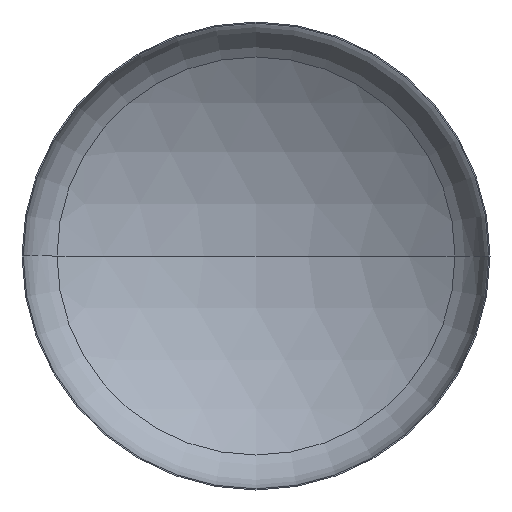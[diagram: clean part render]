
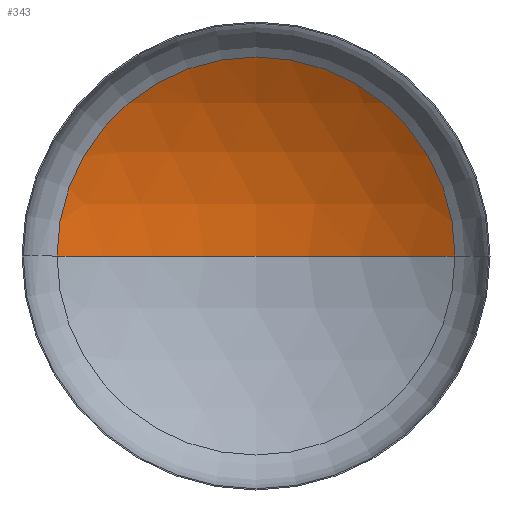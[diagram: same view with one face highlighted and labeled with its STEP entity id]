
A CAD part, front view. The second image highlights one B-rep face of the part: STEP entity #343.
In plain terms, the highlighted spherical face has radius 5600 mm.
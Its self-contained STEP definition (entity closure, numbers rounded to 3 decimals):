
#30 = ORIENTED_EDGE ( 'NONE', *, *, #130, .F. ) ;
#39 = VERTEX_POINT ( 'NONE', #340 ) ;
#58 = AXIS2_PLACEMENT_3D ( 'NONE', #335, #378, #328 ) ;
#61 = AXIS2_PLACEMENT_3D ( 'NONE', #265, #261, #256 ) ;
#63 = AXIS2_PLACEMENT_3D ( 'NONE', #294, #242, #216 ) ;
#67 = DIRECTION ( 'NONE',  ( -1., 0., 0. ) ) ;
#73 = VERTEX_POINT ( 'NONE', #160 ) ;
#95 = SPHERICAL_SURFACE ( 'NONE', #290, 5600. ) ;
#102 = EDGE_LOOP ( 'NONE', ( #30, #405, #120 ) ) ;
#120 = ORIENTED_EDGE ( 'NONE', *, *, #127, .T. ) ;
#127 = EDGE_CURVE ( 'NONE', #39, #73, #394, .T. ) ;
#128 = EDGE_CURVE ( 'NONE', #166, #39, #280, .T. ) ;
#130 = EDGE_CURVE ( 'NONE', #166, #73, #140, .T. ) ;
#140 = CIRCLE ( 'NONE', #58, 5600. ) ;
#146 = DIRECTION ( 'NONE',  ( 0., 0., -1. ) ) ;
#152 = CARTESIAN_POINT ( 'NONE',  ( 0., 1826.686, 0. ) ) ;
#160 = CARTESIAN_POINT ( 'NONE',  ( -2977.168, 969.73, 0. ) ) ;
#166 = VERTEX_POINT ( 'NONE', #152 ) ;
#170 = CARTESIAN_POINT ( 'NONE',  ( 0., -3773.314, 0. ) ) ;
#216 = DIRECTION ( 'NONE',  ( 1., 0., 0. ) ) ;
#242 = DIRECTION ( 'NONE',  ( 0., -1., 0. ) ) ;
#256 = DIRECTION ( 'NONE',  ( -1., 0., 0. ) ) ;
#261 = DIRECTION ( 'NONE',  ( 0., 0., -1. ) ) ;
#265 = CARTESIAN_POINT ( 'NONE',  ( 0., -3773.314, 0. ) ) ;
#280 = CIRCLE ( 'NONE', #61, 5600. ) ;
#290 = AXIS2_PLACEMENT_3D ( 'NONE', #170, #146, #67 ) ;
#294 = CARTESIAN_POINT ( 'NONE',  ( 0., 969.73, 0. ) ) ;
#328 = DIRECTION ( 'NONE',  ( 1., 0., 0. ) ) ;
#335 = CARTESIAN_POINT ( 'NONE',  ( 0., -3773.314, 0. ) ) ;
#340 = CARTESIAN_POINT ( 'NONE',  ( 2977.168, 969.73, 0. ) ) ;
#343 = ADVANCED_FACE ( 'NONE', ( #354 ), #95, .F. ) ;
#354 = FACE_OUTER_BOUND ( 'NONE', #102, .T. ) ;
#378 = DIRECTION ( 'NONE',  ( 0., 0., 1. ) ) ;
#394 = CIRCLE ( 'NONE', #63, 2977.168 ) ;
#405 = ORIENTED_EDGE ( 'NONE', *, *, #128, .T. ) ;
